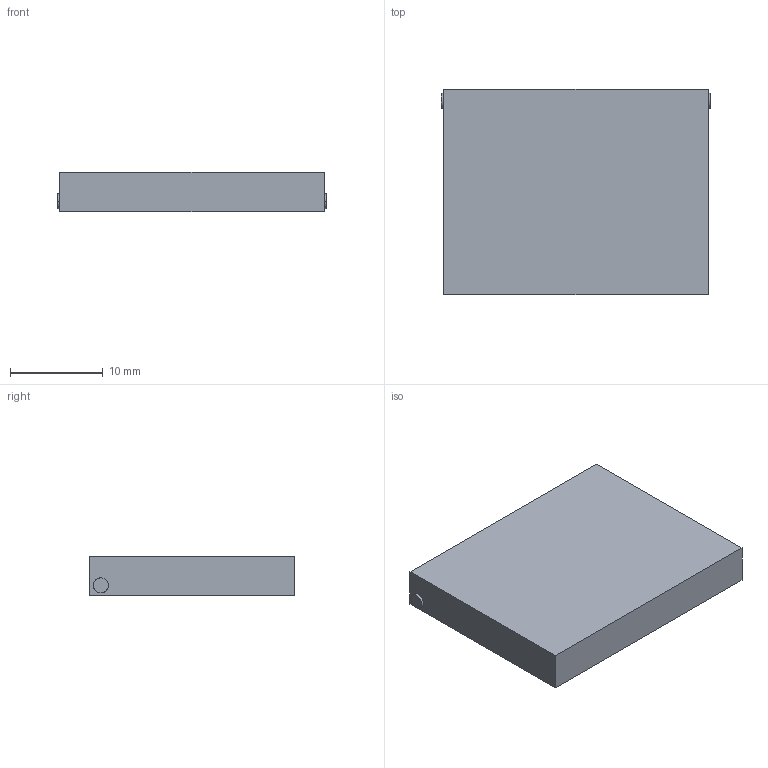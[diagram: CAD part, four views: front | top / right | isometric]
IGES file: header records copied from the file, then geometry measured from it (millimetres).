
Start section:  PTC IGES file: j5d-cov-cn40a.igs
Global section: file name: j5d-cov-cn40a.igs; native system: Creo Parametric by PTC Inc.; preprocessor: 2020184; author: VX25986; organization: Unknown; date: 20210323.200201; units: millimetre
Bounding box: 29 x 22.1 x 4.25 mm (x, y, z)
Surface area: 1932.3 mm2 (no closed solid volume)
Topology: 0 solids, 0 shells, 17 faces, 72 edges, 72 vertices
Faces by surface type: bspline 17
